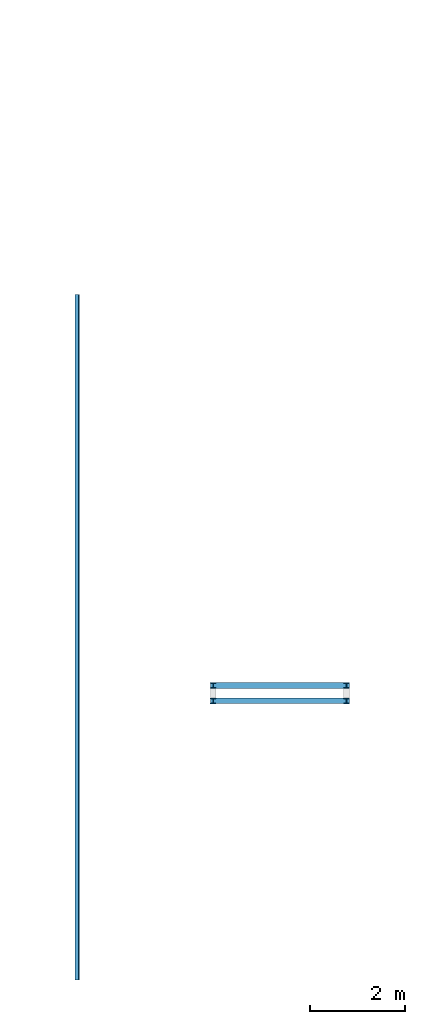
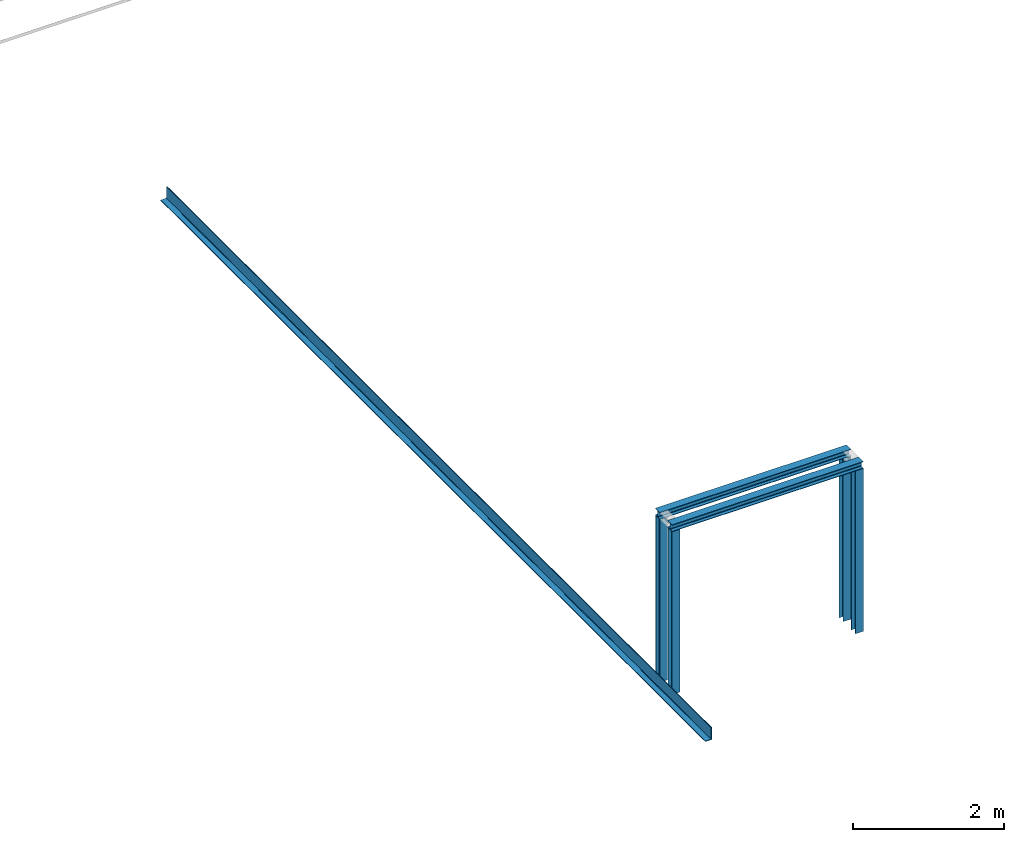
# One storey, part 1 of 3: 4 columns, 3 beams, 1 element without a shape of its own.
"""IFC4X3_ADD2 building model written with IfcOpenShell, lengths in millimetres."""

from ifc_helpers import new_model, si_unit, point, direction, frame, frame_2d, origin_with_axes, place, context, subcontext, project, spatial, polyline, circle_curve, trimmed, segment, composite_curve, i_section, l_section, outline, extrude, source, transform, mapped, material, type_object, type_shapes, element, aggregate, save


model = new_model("IFC4X3_ADD2")

# Units and contexts
model_context = context("Model", 3, precision=1e-05, world=origin_with_axes(), true_north=direction((0.0, 1.0)))
body_context = subcontext(model_context, "Body", "Model", "MODEL_VIEW")
ifc_project = project(units=[si_unit("LENGTHUNIT", "METRE", prefix="MILLI"), si_unit("AREAUNIT", "SQUARE_METRE"), si_unit("VOLUMEUNIT", "CUBIC_METRE"), si_unit("PLANEANGLEUNIT", "RADIAN"), si_unit("TIMEUNIT", "SECOND"), si_unit("MASSUNIT", "GRAM")], contexts=[model_context])

# Site, building, storey
site_placement = place(None, origin_with_axes())
site = spatial("IfcSite", under=ifc_project, at=site_placement, Name="Site", CompositionType="ELEMENT")
building_placement = place(site_placement, origin_with_axes())
building = spatial("IfcBuilding", under=site, at=building_placement, Name="IFC Building Story")
storey_placement = place(building_placement, frame((0.0, 0.0, -3000.0), z_axis=(0.0, 0.0, 1.0), x_axis=(1.0, 0.0, 0.0)))
storey = spatial("IfcBuildingStorey", under=building, at=storey_placement, Name="ETAGE -1", Elevation=-3000.0)

# Assembly, columns, beams
assembly_placement = place(storey_placement, frame((0.0, 0.0, 3000.0), z_axis=(0.0, 0.0, 1.0), x_axis=(1.0, 0.0, 0.0)))
assembly = element("IfcElementAssembly", 1, at=assembly_placement, inside=storey, Name="Assemblage Ossature:non repris au plan structure métallique", ObjectType="Assemblage Ossature:non repris au plan structure métallique", AssemblyPlace="NOTDEFINED", PredefinedType="USERDEFINED")
ifc_material = material(Name="BS_28_Métal")
column_type_1 = type_object("IfcColumnType", Name="BS_28_SCO_LE_Poteau HE-A_HEA120", PredefinedType="NOTDEFINED")
shared_shape_1 = source(origin_with_axes(), body_context, "Body", "SweptSolid", [
    extrude(outline(composite_curve([segment(polyline([(-60.0, -49.0), (-14.50000000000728, -49.0)]), True, "CONTINUOUS"), segment(trimmed(circle_curve(frame_2d((-14.50000000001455, -36.99999999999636), x_axis=(1.0, 0.0)), 12.00000000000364), [point((-14.50000000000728, -49.0))], [point((-2.500000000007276, -37.0))], True, "CARTESIAN"), True, "CONTINUOUS"), segment(polyline([(-2.500000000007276, -37.0), (-2.500000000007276, 37.00000000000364)]), True, "CONTINUOUS"), segment(trimmed(circle_curve(frame_2d((-14.50000000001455, 36.99999999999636), x_axis=(1.0, 0.0)), 12.00000000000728), [point((-2.500000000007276, 37.00000000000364))], [point((-14.50000000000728, 49.0))], True, "CARTESIAN"), True, "CONTINUOUS"), segment(polyline([(-14.50000000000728, 49.0), (-60.0, 49.0)]), True, "CONTINUOUS"), segment(polyline([(-60.0, 49.0), (-60.0, 57.0)]), True, "CONTINUOUS"), segment(polyline([(-60.0, 57.0), (60.0, 57.0)]), True, "CONTINUOUS"), segment(polyline([(60.0, 57.0), (60.0, 49.0)]), True, "CONTINUOUS"), segment(polyline([(60.0, 49.0), (14.5, 49.0)]), True, "CONTINUOUS"), segment(trimmed(circle_curve(frame_2d((14.5, 36.99999999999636), x_axis=(1.0, 0.0)), 12.00000000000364), [point((14.5, 49.0))], [point((2.499999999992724, 37.0))], True, "CARTESIAN"), True, "CONTINUOUS"), segment(polyline([(2.499999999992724, 37.0), (2.499999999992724, -37.00000000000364)]), True, "CONTINUOUS"), segment(trimmed(circle_curve(frame_2d((14.5, -36.99999999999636), x_axis=(1.0, 0.0)), 12.00000000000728), [point((2.499999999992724, -37.00000000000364))], [point((14.49999999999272, -49.0))], True, "CARTESIAN"), True, "CONTINUOUS"), segment(polyline([(14.49999999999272, -49.0), (60.0, -49.0)]), True, "CONTINUOUS"), segment(polyline([(60.0, -49.0), (60.0, -57.0)]), True, "CONTINUOUS"), segment(polyline([(60.0, -57.0), (-60.0, -57.0)]), True, "CONTINUOUS"), segment(polyline([(-60.0, -57.0), (-60.0, -49.0)]), True, "CONTINUOUS")], self_intersect=False)), frame((36016.6894781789, -8821.839739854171, 0.0), z_axis=(0.0, 0.0, 1.0), x_axis=(1.0, 0.0, 0.0)), (0.0, 0.0, 1.0), 2640.0),
])
type_shapes(column_type_1, [shared_shape_1])
column_1_placement = place(assembly_placement, origin_with_axes())
column_1 = element("IfcColumn", 2, at=column_1_placement, type_object=column_type_1, material=ifc_material, Name="BS_28_SCO_LE_Poteau HE-A:HEA120", ObjectType="HEA120", context=body_context, shape_type="MappedRepresentation", body=[
    mapped(shared_shape_1, transform((0.0, 0.0, 0.0))),
])
column_type_2 = type_object("IfcColumnType", Name="BS_28_SCO_LE_Poteau HE-A_HEA120_1", PredefinedType="NOTDEFINED")
shared_shape_2 = source(origin_with_axes(), body_context, "Body", "SweptSolid", [
    extrude(outline(composite_curve([segment(polyline([(-60.0, -49.0), (-14.50000000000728, -49.0)]), True, "CONTINUOUS"), segment(trimmed(circle_curve(frame_2d((-14.50000000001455, -36.99999999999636), x_axis=(1.0, 0.0)), 12.00000000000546), [point((-14.50000000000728, -49.0))], [point((-2.500000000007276, -37.0))], True, "CARTESIAN"), True, "CONTINUOUS"), segment(polyline([(-2.500000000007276, -37.0), (-2.500000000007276, 37.00000000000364)]), True, "CONTINUOUS"), segment(trimmed(circle_curve(frame_2d((-14.50000000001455, 36.99999999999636), x_axis=(1.0, 0.0)), 12.00000000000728), [point((-2.500000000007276, 37.00000000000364))], [point((-14.50000000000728, 49.0))], True, "CARTESIAN"), True, "CONTINUOUS"), segment(polyline([(-14.50000000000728, 49.0), (-60.0, 49.0)]), True, "CONTINUOUS"), segment(polyline([(-60.0, 49.0), (-60.0, 57.0)]), True, "CONTINUOUS"), segment(polyline([(-60.0, 57.0), (60.0, 57.0)]), True, "CONTINUOUS"), segment(polyline([(60.0, 57.0), (60.0, 49.0)]), True, "CONTINUOUS"), segment(polyline([(60.0, 49.0), (14.5, 49.0)]), True, "CONTINUOUS"), segment(trimmed(circle_curve(frame_2d((14.5, 36.99999999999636), x_axis=(1.0, 0.0)), 12.00000000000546), [point((14.5, 49.0))], [point((2.499999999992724, 37.0))], True, "CARTESIAN"), True, "CONTINUOUS"), segment(polyline([(2.499999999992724, 37.0), (2.499999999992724, -37.00000000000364)]), True, "CONTINUOUS"), segment(trimmed(circle_curve(frame_2d((14.5, -36.99999999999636), x_axis=(1.0, 0.0)), 12.00000000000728), [point((2.499999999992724, -37.00000000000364))], [point((14.49999999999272, -49.0))], True, "CARTESIAN"), True, "CONTINUOUS"), segment(polyline([(14.49999999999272, -49.0), (60.0, -49.0)]), True, "CONTINUOUS"), segment(polyline([(60.0, -49.0), (60.0, -57.0)]), True, "CONTINUOUS"), segment(polyline([(60.0, -57.0), (-60.0, -57.0)]), True, "CONTINUOUS"), segment(polyline([(-60.0, -57.0), (-60.0, -49.0)]), True, "CONTINUOUS")], self_intersect=False)), frame((36016.6894781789, -8495.83973986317, 0.0), z_axis=(0.0, 0.0, 1.0), x_axis=(1.0, 0.0, 0.0)), (0.0, 0.0, 1.0), 2640.0),
])
type_shapes(column_type_2, [shared_shape_2])
column_2_placement = place(assembly_placement, origin_with_axes())
column_2 = element("IfcColumn", 3, at=column_2_placement, type_object=column_type_2, material=ifc_material, Name="BS_28_SCO_LE_Poteau HE-A:HEA120", ObjectType="HEA120", context=body_context, shape_type="MappedRepresentation", body=[
    mapped(shared_shape_2, transform((0.0, 0.0, 0.0))),
])
column_type_3 = type_object("IfcColumnType", Name="BS_28_SCO_LE_Poteau HE-A_HEA120_3", PredefinedType="NOTDEFINED")
shared_shape_3 = source(origin_with_axes(), body_context, "Body", "SweptSolid", [
    extrude(outline(composite_curve([segment(polyline([(-60.0, -49.0), (-14.50000000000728, -49.0)]), True, "CONTINUOUS"), segment(trimmed(circle_curve(frame_2d((-14.50000000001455, -36.99999999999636), x_axis=(1.0, 0.0)), 12.00000000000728), [point((-14.50000000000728, -49.0))], [point((-2.500000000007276, -37.0))], True, "CARTESIAN"), True, "CONTINUOUS"), segment(polyline([(-2.500000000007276, -37.0), (-2.500000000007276, 37.00000000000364)]), True, "CONTINUOUS"), segment(trimmed(circle_curve(frame_2d((-14.50000000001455, 36.99999999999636), x_axis=(1.0, 0.0)), 12.00000000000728), [point((-2.500000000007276, 37.00000000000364))], [point((-14.50000000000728, 49.0))], True, "CARTESIAN"), True, "CONTINUOUS"), segment(polyline([(-14.50000000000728, 49.0), (-60.0, 49.0)]), True, "CONTINUOUS"), segment(polyline([(-60.0, 49.0), (-60.0, 57.0)]), True, "CONTINUOUS"), segment(polyline([(-60.0, 57.0), (60.0, 57.0)]), True, "CONTINUOUS"), segment(polyline([(60.0, 57.0), (60.0, 49.0)]), True, "CONTINUOUS"), segment(polyline([(60.0, 49.0), (14.5, 49.0)]), True, "CONTINUOUS"), segment(trimmed(circle_curve(frame_2d((14.5, 36.99999999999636), x_axis=(1.0, 0.0)), 12.00000000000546), [point((14.5, 49.0))], [point((2.499999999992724, 37.0))], True, "CARTESIAN"), True, "CONTINUOUS"), segment(polyline([(2.499999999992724, 37.0), (2.499999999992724, -37.00000000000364)]), True, "CONTINUOUS"), segment(trimmed(circle_curve(frame_2d((14.5, -36.99999999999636), x_axis=(1.0, 0.0)), 12.00000000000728), [point((2.499999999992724, -37.00000000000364))], [point((14.49999999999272, -49.0))], True, "CARTESIAN"), True, "CONTINUOUS"), segment(polyline([(14.49999999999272, -49.0), (60.0, -49.0)]), True, "CONTINUOUS"), segment(polyline([(60.0, -49.0), (60.0, -57.0)]), True, "CONTINUOUS"), segment(polyline([(60.0, -57.0), (-60.0, -57.0)]), True, "CONTINUOUS"), segment(polyline([(-60.0, -57.0), (-60.0, -49.0)]), True, "CONTINUOUS")], self_intersect=False)), frame((38826.6894781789, -8495.839739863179, 0.0), z_axis=(0.0, 0.0, 1.0), x_axis=(1.0, 0.0, 0.0)), (0.0, 0.0, 1.0), 2640.0),
])
type_shapes(column_type_3, [shared_shape_3])
column_3_placement = place(assembly_placement, origin_with_axes())
column_3 = element("IfcColumn", 4, at=column_3_placement, type_object=column_type_3, material=ifc_material, Name="BS_28_SCO_LE_Poteau HE-A:HEA120", ObjectType="HEA120", context=body_context, shape_type="MappedRepresentation", body=[
    mapped(shared_shape_3, transform((0.0, 0.0, 0.0))),
])
column_type_4 = type_object("IfcColumnType", Name="BS_28_SCO_LE_Poteau HE-A_HEA120_5", PredefinedType="NOTDEFINED")
shared_shape_4 = source(origin_with_axes(), body_context, "Body", "SweptSolid", [
    extrude(outline(composite_curve([segment(polyline([(-60.0, -49.0), (-14.50000000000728, -49.0)]), True, "CONTINUOUS"), segment(trimmed(circle_curve(frame_2d((-14.50000000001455, -36.99999999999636), x_axis=(1.0, 0.0)), 12.00000000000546), [point((-14.50000000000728, -49.0))], [point((-2.500000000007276, -37.0))], True, "CARTESIAN"), True, "CONTINUOUS"), segment(polyline([(-2.500000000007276, -37.0), (-2.500000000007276, 37.00000000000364)]), True, "CONTINUOUS"), segment(trimmed(circle_curve(frame_2d((-14.50000000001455, 36.99999999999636), x_axis=(1.0, 0.0)), 12.00000000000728), [point((-2.500000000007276, 37.00000000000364))], [point((-14.50000000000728, 49.0))], True, "CARTESIAN"), True, "CONTINUOUS"), segment(polyline([(-14.50000000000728, 49.0), (-60.0, 49.0)]), True, "CONTINUOUS"), segment(polyline([(-60.0, 49.0), (-60.0, 57.0)]), True, "CONTINUOUS"), segment(polyline([(-60.0, 57.0), (60.0, 57.0)]), True, "CONTINUOUS"), segment(polyline([(60.0, 57.0), (60.0, 49.0)]), True, "CONTINUOUS"), segment(polyline([(60.0, 49.0), (14.5, 49.0)]), True, "CONTINUOUS"), segment(trimmed(circle_curve(frame_2d((14.5, 36.99999999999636), x_axis=(1.0, 0.0)), 12.00000000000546), [point((14.5, 49.0))], [point((2.499999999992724, 37.0))], True, "CARTESIAN"), True, "CONTINUOUS"), segment(polyline([(2.499999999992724, 37.0), (2.499999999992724, -37.00000000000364)]), True, "CONTINUOUS"), segment(trimmed(circle_curve(frame_2d((14.5, -36.99999999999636), x_axis=(1.0, 0.0)), 12.00000000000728), [point((2.499999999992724, -37.00000000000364))], [point((14.49999999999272, -49.0))], True, "CARTESIAN"), True, "CONTINUOUS"), segment(polyline([(14.49999999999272, -49.0), (60.0, -49.0)]), True, "CONTINUOUS"), segment(polyline([(60.0, -49.0), (60.0, -57.0)]), True, "CONTINUOUS"), segment(polyline([(60.0, -57.0), (-60.0, -57.0)]), True, "CONTINUOUS"), segment(polyline([(-60.0, -57.0), (-60.0, -49.0)]), True, "CONTINUOUS")], self_intersect=False)), frame((38826.6894781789, -8821.83973986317, 0.0), z_axis=(0.0, 0.0, 1.0), x_axis=(1.0, 0.0, 0.0)), (0.0, 0.0, 1.0), 2640.0),
])
type_shapes(column_type_4, [shared_shape_4])
column_4_placement = place(assembly_placement, origin_with_axes())
column_4 = element("IfcColumn", 5, at=column_4_placement, type_object=column_type_4, material=ifc_material, Name="BS_28_SCO_LE_Poteau HE-A:HEA120", ObjectType="HEA120", context=body_context, shape_type="MappedRepresentation", body=[
    mapped(shared_shape_4, transform((0.0, 0.0, 0.0))),
])
beam_1_placement = place(assembly_placement, frame((38886.6894781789, -8821.839739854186, 2697.0), z_axis=(-1.0, 0.0, 0.0), x_axis=(0.0, -1.0, 0.0)))
beam_1 = element("IfcBeam", 6, at=beam_1_placement, material=ifc_material, Name="BS_28_SF_LE_HE-A:HEA120", ObjectType="HEA120 2", context=body_context, shape_type="SweptSolid", body=[
    extrude(i_section(OverallWidth=119.999999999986, OverallDepth=114.0, WebThickness=5.00000000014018, FlangeThickness=8.0, FilletRadius=12.0, at=frame_2d((0.0, 5.95523630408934e-12), x_axis=(1.0, 0.0))), origin_with_axes(), (0.0, 0.0, 1.0), 2930.0),
])
beam_2_placement = place(assembly_placement, frame((38886.6894781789, -8495.839739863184, 2697.0), z_axis=(-1.0, 0.0, 0.0), x_axis=(0.0, -1.0, 0.0)))
beam_2 = element("IfcBeam", 7, at=beam_2_placement, material=ifc_material, Name="BS_28_SF_LE_HE-A:HEA120", ObjectType="HEA120 2", context=body_context, shape_type="SweptSolid", body=[
    extrude(i_section(OverallWidth=119.999999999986, OverallDepth=114.0, WebThickness=5.00000000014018, FlangeThickness=8.0, FilletRadius=12.0, at=frame_2d((0.0, 5.95523630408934e-12), x_axis=(1.0, 0.0))), origin_with_axes(), (0.0, 0.0, 1.0), 2930.0),
])
beam_3_placement = place(assembly_placement, frame((33151.6894781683, -14706.41600002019, 3870.0), z_axis=(0.0, 1.0, 0.0), x_axis=(-1.0, 0.0, 0.0)))
beam_3 = element("IfcBeam", 8, at=beam_3_placement, material=ifc_material, Name="BS_28_SF_LE_Cornière à ailes inégales:L200x100x10", ObjectType="L200x100x10", context=body_context, shape_type="SweptSolid", body=[
    extrude(l_section(Depth=199.9999999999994, Width=99.99999999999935, Thickness=9.99999999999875, FilletRadius=14.9999999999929, EdgeRadius=7.49999999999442, LegSlope=0.0, at=frame_2d((0.0, 5.95523630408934e-12), x_axis=(1.0, 0.0))), origin_with_axes(), (0.0, 0.0, 1.0), 14456.4),
])
aggregate(assembly, [column_1, column_2, column_3, column_4, beam_1, beam_2, beam_3])

save(model, "model.ifc")
